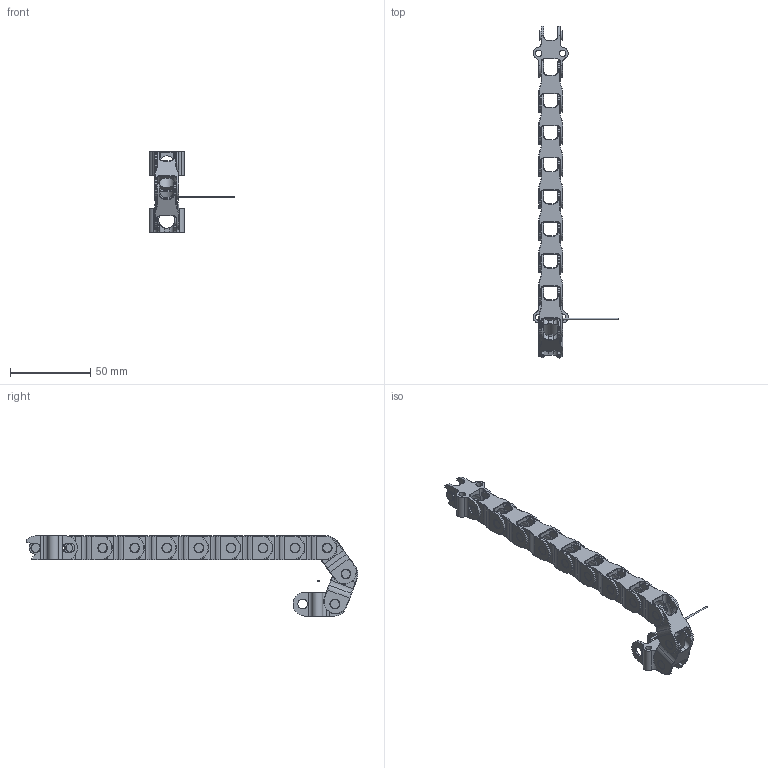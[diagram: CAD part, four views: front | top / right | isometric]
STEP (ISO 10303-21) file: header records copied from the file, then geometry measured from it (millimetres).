
FILE_DESCRIPTION((''),'2;1');
FILE_NAME('C:\Uebbing\PARAMETERKETTEN\KOLIBRI\Kol_15_015_3\KOLIBRI 15_015_3_R17_5.stp','2012-03-02T14:46:26',('Uebbing'),(''),'Autodesk Inventor 10','Autodesk Inventor 10','');
FILE_SCHEMA(('AUTOMOTIVE_DESIGN { 1 0 10303 214 1 1 1 1 }'));
Length unit declared in the file: millimetre
Products named in the file (4): KOLIBRI 15_015_3_PARAMETRISCH_K_Anschluß; Achse; Kol_15_015_3_Anschluss; Kol_15_015_3
Assembly tree (13 placements, depth 2):
  KOLIBRI 15_015_3_PARAMETRISCH_K_Anschluß
    Achse
    Kol_15_015_3_Anschluss  x2
    Kol_15_015_3  x10
Bounding box: 53.5 x 206.9 x 50 mm (x, y, z)
Volume: 26091.8 mm3; surface area: 28373.5 mm2
Topology: 13 solids, 13 shells, 1285 faces, 3234 edges, 1975 vertices
Faces by surface type: cylinder 611, plane 326, torus 250, bspline 50, cone 48
Full cylindrical faces by diameter (mm): 1 x1, 4 x4, 6.1 x24, 10 x12
Entity records: 6501 total; most frequent: CARTESIAN_POINT 1848, DIRECTION 1007, ORIENTED_EDGE 906, EDGE_CURVE 453, AXIS2_PLACEMENT_3D 400, VERTEX_POINT 292, EDGE_LOOP 217, VECTOR 207
